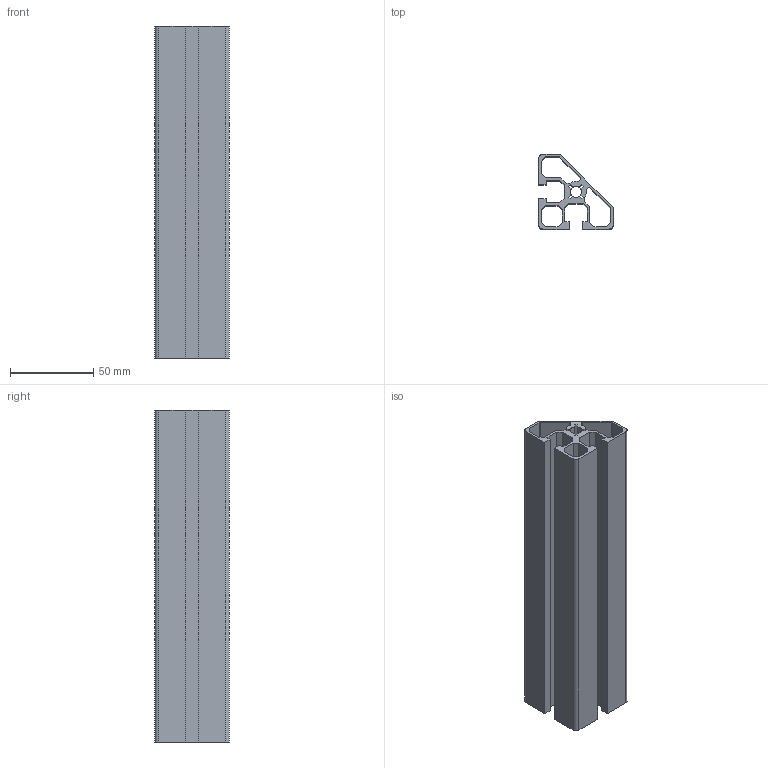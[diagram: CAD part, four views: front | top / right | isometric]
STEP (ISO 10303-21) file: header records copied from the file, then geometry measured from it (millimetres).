
FILE_DESCRIPTION (( 'STEP AP203' ), '1' );
FILE_NAME ('016079 REF 4545G.STEP', '2015-12-01T11:50:06', ( '' ), ( '' ), 'SwSTEP 2.0', 'SolidWorks 2015', '' );
FILE_SCHEMA (( 'CONFIG_CONTROL_DESIGN' ));
Length unit declared in the file: millimetre
Products named in the file (1): 016079 REF 4545G
Bounding box: 45 x 45 x 200 mm (x, y, z)
Volume: 95772.2 mm3; surface area: 90671.5 mm2
Topology: 1 solids, 1 shells, 89 faces, 261 edges, 174 vertices
Faces by surface type: plane 65, cylinder 24
Entity records: 3036 total; most frequent: CARTESIAN_POINT 525, ORIENTED_EDGE 522, DIRECTION 489, EDGE_CURVE 261, LINE 213, VECTOR 213, VERTEX_POINT 174, AXIS2_PLACEMENT_3D 138
